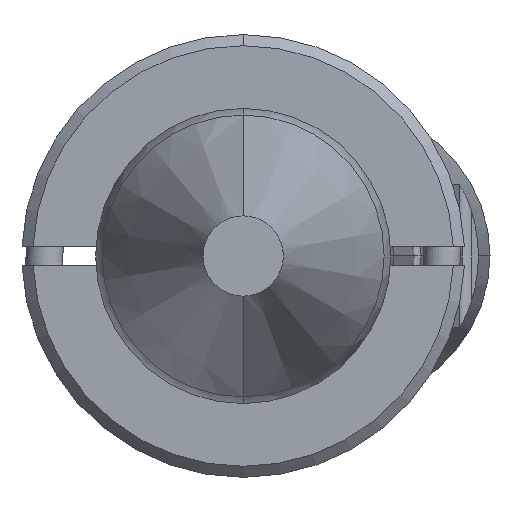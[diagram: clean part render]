
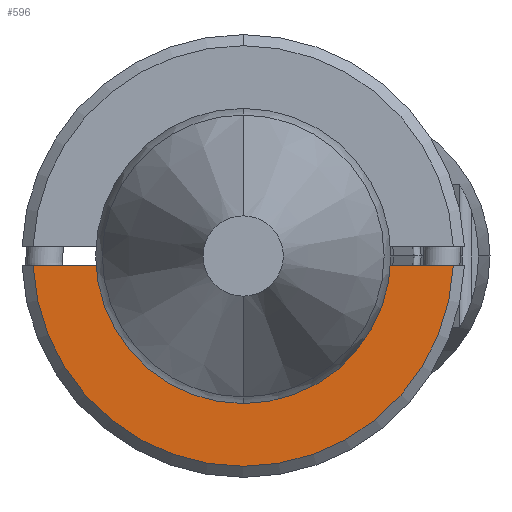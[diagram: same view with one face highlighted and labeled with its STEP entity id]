
A CAD part, front view. The second image highlights one B-rep face of the part: STEP entity #596.
In plain terms, the highlighted planar face has unit normal (0, -1, 0).
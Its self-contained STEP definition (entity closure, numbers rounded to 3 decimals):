
#76 = EDGE_LOOP ( 'NONE', ( #3796, #3473, #1583, #3704, #881 ) ) ;
#154 = VERTEX_POINT ( 'NONE', #495 ) ;
#239 = VERTEX_POINT ( 'NONE', #2513 ) ;
#409 = PLANE ( 'NONE',  #4098 ) ;
#465 = AXIS2_PLACEMENT_3D ( 'NONE', #1555, #2522, #3802 ) ;
#495 = CARTESIAN_POINT ( 'NONE',  ( 0., -6., -3.2 ) ) ;
#596 = ADVANCED_FACE ( 'NONE', ( #2610 ), #409, .T. ) ;
#701 = EDGE_CURVE ( 'NONE', #2169, #2581, #983, .T. ) ;
#750 = EDGE_CURVE ( 'NONE', #2682, #239, #781, .T. ) ;
#781 = LINE ( 'NONE', #1155, #3912 ) ;
#881 = ORIENTED_EDGE ( 'NONE', *, *, #3620, .T. ) ;
#983 = LINE ( 'NONE', #2247, #3064 ) ;
#1043 = DIRECTION ( 'NONE',  ( 0., 0., -1. ) ) ;
#1064 = CIRCLE ( 'NONE', #3172, 5.7 ) ;
#1074 = CARTESIAN_POINT ( 'NONE',  ( -3.19, -6., -0.25 ) ) ;
#1155 = CARTESIAN_POINT ( 'NONE',  ( -6., -6., -0.25 ) ) ;
#1157 = AXIS2_PLACEMENT_3D ( 'NONE', #2151, #4035, #2475 ) ;
#1337 = EDGE_CURVE ( 'NONE', #2169, #239, #1064, .T. ) ;
#1555 = CARTESIAN_POINT ( 'NONE',  ( 0., -6., 0. ) ) ;
#1583 = ORIENTED_EDGE ( 'NONE', *, *, #750, .F. ) ;
#1935 = DIRECTION ( 'NONE',  ( 0., -1., 0. ) ) ;
#2001 = CARTESIAN_POINT ( 'NONE',  ( -6., -6., 0. ) ) ;
#2151 = CARTESIAN_POINT ( 'NONE',  ( 0., -6., 0. ) ) ;
#2169 = VERTEX_POINT ( 'NONE', #3612 ) ;
#2226 = CIRCLE ( 'NONE', #1157, 3.2 ) ;
#2247 = CARTESIAN_POINT ( 'NONE',  ( -6., -6., -0.25 ) ) ;
#2424 = EDGE_CURVE ( 'NONE', #2682, #154, #4032, .T. ) ;
#2475 = DIRECTION ( 'NONE',  ( 0., 0., -1. ) ) ;
#2513 = CARTESIAN_POINT ( 'NONE',  ( 5.695, -6., -0.25 ) ) ;
#2522 = DIRECTION ( 'NONE',  ( 0., 1., 0. ) ) ;
#2581 = VERTEX_POINT ( 'NONE', #1074 ) ;
#2609 = DIRECTION ( 'NONE',  ( 0., -1., 0. ) ) ;
#2610 = FACE_OUTER_BOUND ( 'NONE', #76, .T. ) ;
#2682 = VERTEX_POINT ( 'NONE', #2747 ) ;
#2747 = CARTESIAN_POINT ( 'NONE',  ( 3.19, -6., -0.25 ) ) ;
#3064 = VECTOR ( 'NONE', #3511, 1000. ) ;
#3172 = AXIS2_PLACEMENT_3D ( 'NONE', #3553, #2609, #3238 ) ;
#3238 = DIRECTION ( 'NONE',  ( 0., 0., -1. ) ) ;
#3473 = ORIENTED_EDGE ( 'NONE', *, *, #1337, .T. ) ;
#3511 = DIRECTION ( 'NONE',  ( 1., 0., 0. ) ) ;
#3553 = CARTESIAN_POINT ( 'NONE',  ( 0., -6., 0. ) ) ;
#3612 = CARTESIAN_POINT ( 'NONE',  ( -5.695, -6., -0.25 ) ) ;
#3620 = EDGE_CURVE ( 'NONE', #154, #2581, #2226, .T. ) ;
#3704 = ORIENTED_EDGE ( 'NONE', *, *, #2424, .T. ) ;
#3796 = ORIENTED_EDGE ( 'NONE', *, *, #701, .F. ) ;
#3802 = DIRECTION ( 'NONE',  ( 0., 0., -1. ) ) ;
#3912 = VECTOR ( 'NONE', #3954, 1000. ) ;
#3954 = DIRECTION ( 'NONE',  ( 1., 0., 0. ) ) ;
#4032 = CIRCLE ( 'NONE', #465, 3.2 ) ;
#4035 = DIRECTION ( 'NONE',  ( 0., 1., 0. ) ) ;
#4098 = AXIS2_PLACEMENT_3D ( 'NONE', #2001, #1935, #1043 ) ;
